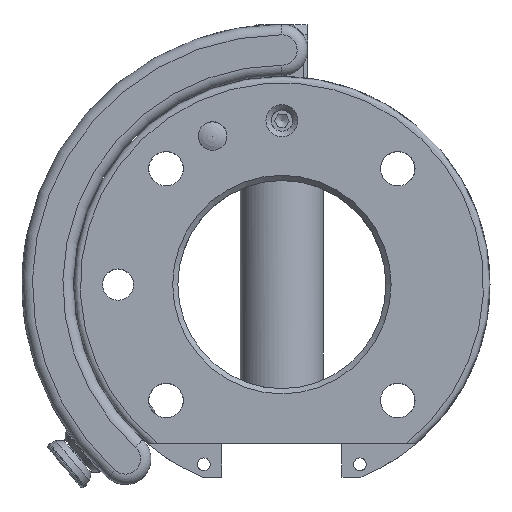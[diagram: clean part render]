
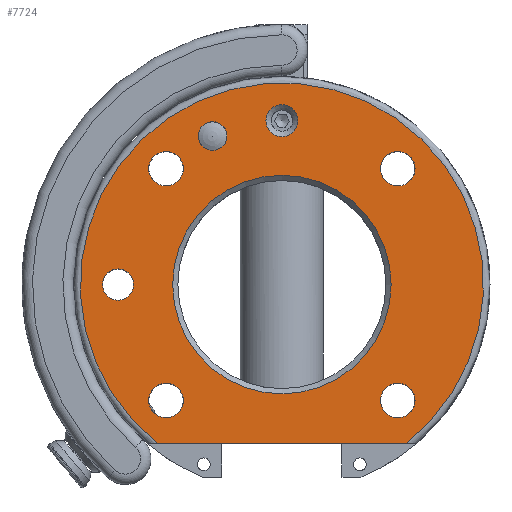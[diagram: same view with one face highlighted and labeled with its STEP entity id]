
A CAD part, top view. The second image highlights one B-rep face of the part: STEP entity #7724.
In plain terms, the highlighted planar face has unit normal (0, 0, 1).
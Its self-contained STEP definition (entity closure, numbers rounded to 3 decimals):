
#260=PLANE('',#8337);
#420=FACE_BOUND('',#1083,.T.);
#421=FACE_BOUND('',#1084,.T.);
#422=FACE_BOUND('',#1085,.T.);
#423=FACE_BOUND('',#1086,.T.);
#424=FACE_BOUND('',#1087,.T.);
#425=FACE_BOUND('',#1088,.T.);
#426=FACE_BOUND('',#1089,.T.);
#427=FACE_BOUND('',#1090,.T.);
#597=FACE_OUTER_BOUND('',#1082,.T.);
#1082=EDGE_LOOP('',(#5606,#5607));
#1083=EDGE_LOOP('',(#5608));
#1084=EDGE_LOOP('',(#5609));
#1085=EDGE_LOOP('',(#5610));
#1086=EDGE_LOOP('',(#5611));
#1087=EDGE_LOOP('',(#5612));
#1088=EDGE_LOOP('',(#5613));
#1089=EDGE_LOOP('',(#5614));
#1090=EDGE_LOOP('',(#5615));
#1928=LINE('',#12551,#2437);
#2437=VECTOR('',#9309,10.);
#2880=CIRCLE('',#8192,3.);
#2884=CIRCLE('',#8197,2.75);
#2905=CIRCLE('',#8231,3.324);
#2907=CIRCLE('',#8235,3.324);
#2909=CIRCLE('',#8239,3.324);
#2911=CIRCLE('',#8243,3.324);
#2949=CIRCLE('',#8322,21.);
#2961=CIRCLE('',#8338,38.75);
#2962=CIRCLE('',#8339,3.067);
#3186=VERTEX_POINT('',#11491);
#3190=VERTEX_POINT('',#11501);
#3213=VERTEX_POINT('',#11611);
#3215=VERTEX_POINT('',#11619);
#3217=VERTEX_POINT('',#11627);
#3219=VERTEX_POINT('',#11635);
#3313=VERTEX_POINT('',#12446);
#3326=VERTEX_POINT('',#12548);
#3327=VERTEX_POINT('',#12549);
#3328=VERTEX_POINT('',#12552);
#4006=EDGE_CURVE('',#3186,#3186,#2880,.T.);
#4012=EDGE_CURVE('',#3190,#3190,#2884,.T.);
#4043=EDGE_CURVE('',#3213,#3213,#2905,.T.);
#4047=EDGE_CURVE('',#3215,#3215,#2907,.T.);
#4051=EDGE_CURVE('',#3217,#3217,#2909,.T.);
#4055=EDGE_CURVE('',#3219,#3219,#2911,.T.);
#4173=EDGE_CURVE('',#3313,#3313,#2949,.T.);
#4192=EDGE_CURVE('',#3326,#3327,#2961,.T.);
#4193=EDGE_CURVE('',#3326,#3327,#1928,.T.);
#4194=EDGE_CURVE('',#3328,#3328,#2962,.T.);
#5606=ORIENTED_EDGE('',*,*,#4192,.F.);
#5607=ORIENTED_EDGE('',*,*,#4193,.T.);
#5608=ORIENTED_EDGE('',*,*,#4173,.F.);
#5609=ORIENTED_EDGE('',*,*,#4006,.T.);
#5610=ORIENTED_EDGE('',*,*,#4012,.T.);
#5611=ORIENTED_EDGE('',*,*,#4043,.T.);
#5612=ORIENTED_EDGE('',*,*,#4047,.T.);
#5613=ORIENTED_EDGE('',*,*,#4051,.T.);
#5614=ORIENTED_EDGE('',*,*,#4055,.T.);
#5615=ORIENTED_EDGE('',*,*,#4194,.F.);
#7724=ADVANCED_FACE('',(#597,#420,#421,#422,#423,#424,#425,#426,#427),#260,
 .T.);
#8192=AXIS2_PLACEMENT_3D('',#11492,#8959,#8960);
#8197=AXIS2_PLACEMENT_3D('',#11503,#8971,#8972);
#8231=AXIS2_PLACEMENT_3D('',#11612,#9048,#9049);
#8235=AXIS2_PLACEMENT_3D('',#11620,#9058,#9059);
#8239=AXIS2_PLACEMENT_3D('',#11628,#9068,#9069);
#8243=AXIS2_PLACEMENT_3D('',#11636,#9078,#9079);
#8322=AXIS2_PLACEMENT_3D('',#12447,#9270,#9271);
#8337=AXIS2_PLACEMENT_3D('',#12547,#9305,#9306);
#8338=AXIS2_PLACEMENT_3D('',#12550,#9307,#9308);
#8339=AXIS2_PLACEMENT_3D('',#12553,#9310,#9311);
#8959=DIRECTION('center_axis',(0.,0.,-1.));
#8960=DIRECTION('ref_axis',(1.,0.,0.));
#8971=DIRECTION('center_axis',(0.,0.,-1.));
#8972=DIRECTION('ref_axis',(-1.,0.,0.));
#9048=DIRECTION('center_axis',(0.,0.,-1.));
#9049=DIRECTION('ref_axis',(1.,0.,0.));
#9058=DIRECTION('center_axis',(0.,0.,-1.));
#9059=DIRECTION('ref_axis',(1.,0.,0.));
#9068=DIRECTION('center_axis',(0.,0.,-1.));
#9069=DIRECTION('ref_axis',(1.,0.,0.));
#9078=DIRECTION('center_axis',(0.,0.,-1.));
#9079=DIRECTION('ref_axis',(1.,0.,0.));
#9270=DIRECTION('center_axis',(0.,0.,1.));
#9271=DIRECTION('ref_axis',(-1.,0.,0.));
#9305=DIRECTION('center_axis',(0.,0.,1.));
#9306=DIRECTION('ref_axis',(1.,0.,0.));
#9307=DIRECTION('center_axis',(0.,0.,-1.));
#9308=DIRECTION('ref_axis',(0.,1.,0.));
#9309=DIRECTION('',(1.,0.,0.));
#9310=DIRECTION('center_axis',(0.,0.,1.));
#9311=DIRECTION('ref_axis',(-1.,0.,0.));
#11491=CARTESIAN_POINT('',(-34.5,0.,30.5));
#11492=CARTESIAN_POINT('Origin',(-31.5,0.,30.5));
#11501=CARTESIAN_POINT('',(-10.562,28.549,30.5));
#11503=CARTESIAN_POINT('Origin',(-13.312,28.549,30.5));
#11611=CARTESIAN_POINT('',(-25.597,-22.274,30.5));
#11612=CARTESIAN_POINT('Origin',(-22.274,-22.274,30.5));
#11619=CARTESIAN_POINT('',(18.95,22.274,30.5));
#11620=CARTESIAN_POINT('Origin',(22.274,22.274,30.5));
#11627=CARTESIAN_POINT('',(-25.597,22.274,30.5));
#11628=CARTESIAN_POINT('Origin',(-22.274,22.274,30.5));
#11635=CARTESIAN_POINT('',(18.95,-22.274,30.5));
#11636=CARTESIAN_POINT('Origin',(22.274,-22.274,30.5));
#12446=CARTESIAN_POINT('',(21.,0.,30.5));
#12447=CARTESIAN_POINT('Origin',(0.,0.,30.5));
#12547=CARTESIAN_POINT('Origin',(0.,0.,30.5));
#12548=CARTESIAN_POINT('',(-23.902,-30.5,30.5));
#12549=CARTESIAN_POINT('',(23.902,-30.5,30.5));
#12550=CARTESIAN_POINT('Origin',(0.,0.,30.5));
#12551=CARTESIAN_POINT('',(-12.94,-30.5,30.5));
#12552=CARTESIAN_POINT('',(3.067,31.5,30.5));
#12553=CARTESIAN_POINT('Origin',(0.,31.5,30.5));
